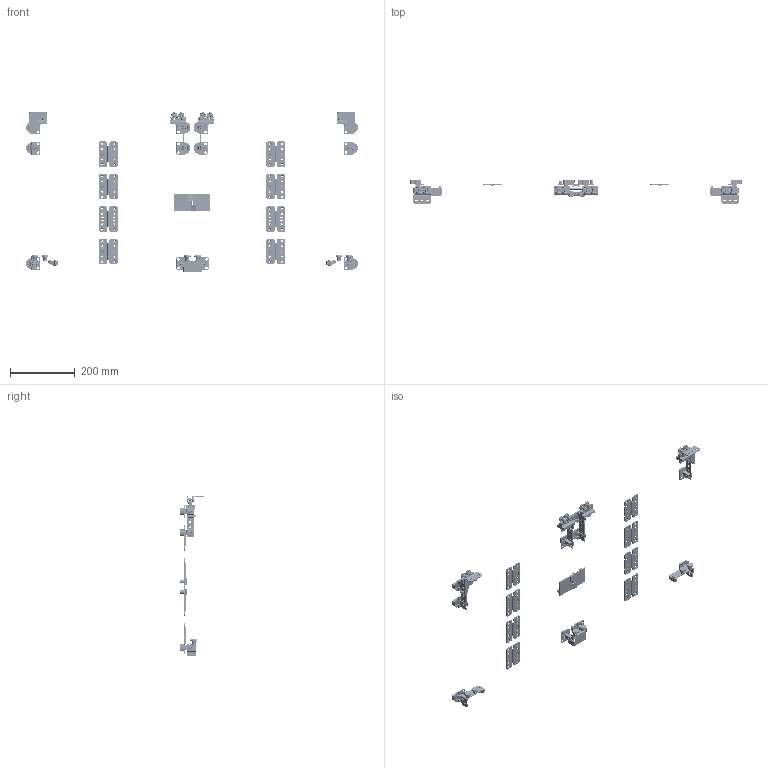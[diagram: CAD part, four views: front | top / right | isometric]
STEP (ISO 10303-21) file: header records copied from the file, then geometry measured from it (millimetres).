
FILE_DESCRIPTION( ( '' ), '1' );
FILE_NAME( '//10.120.51.241/design/Data Transfer/Sunil/New Folder/70987.stp', '2013-11-27T11:49:25', ( '' ), ( '' ), ' ', ' ', ' ' );
FILE_SCHEMA( ( 'CONFIG_CONTROL_DESIGN' ) );
Length unit declared in the file: millimetre
Products named in the file (39): 1; 2; 3; 4; 5; 6; 7; 8; 9; 10; 11; 12; 13; 14; 15; 16; 17; 18; 19; 20; 21; 22; 23; 24; 25; 26; 27; 28; 29; 30; 31; 32; 33; 34; 35; 36; 37; 38; 39
Bounding box: 1024.88 x 72.9 x 494 mm (x, y, z)
Volume: 395942 mm3; surface area: 356830.8 mm2
Topology: 39 solids, 41 shells, 6378 faces, 18385 edges, 11991 vertices
Faces by surface type: plane 3718, cylinder 2116, torus 342, cone 190, sphere 12
Entity records: 213563 total; most frequent: CARTESIAN_POINT 37679, DIRECTION 36975, ORIENTED_EDGE 36694, EDGE_CURVE 18347, LINE 12413, VECTOR 12413, AXIS2_PLACEMENT_3D 12281, VERTEX_POINT 11991
